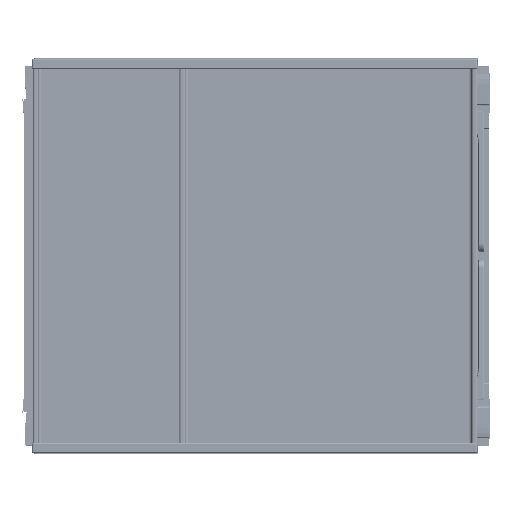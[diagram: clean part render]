
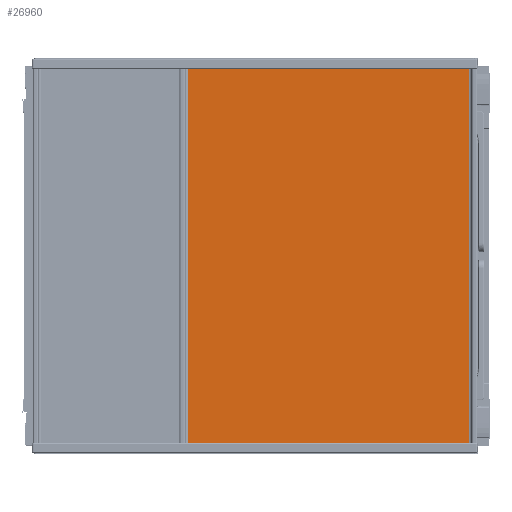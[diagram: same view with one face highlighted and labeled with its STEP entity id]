
A CAD part, top view. The second image highlights one B-rep face of the part: STEP entity #26960.
In plain terms, the highlighted planar face has unit normal (0, 0, 1).
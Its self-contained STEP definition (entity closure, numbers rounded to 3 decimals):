
#26960=ADVANCED_FACE('',(#42848),#35161,.T.);
#35161=PLANE('',#219201);
#42848=FACE_OUTER_BOUND('',#54937,.T.);
#54937=EDGE_LOOP('',(#101114,#101115,#101116,#101117));
#101114=ORIENTED_EDGE('',*,*,#165396,.F.);
#101115=ORIENTED_EDGE('',*,*,#165397,.T.);
#101116=ORIENTED_EDGE('',*,*,#165398,.T.);
#101117=ORIENTED_EDGE('',*,*,#165399,.T.);
#140250=VERTEX_POINT('',#370273);
#140251=VERTEX_POINT('',#370274);
#140252=VERTEX_POINT('',#370276);
#140253=VERTEX_POINT('',#370278);
#165396=EDGE_CURVE('',#140250,#140251,#187519,.T.);
#165397=EDGE_CURVE('',#140250,#140252,#187520,.T.);
#165398=EDGE_CURVE('',#140252,#140253,#187521,.T.);
#165399=EDGE_CURVE('',#140253,#140251,#187522,.T.);
#187519=LINE('',#370272,#201956);
#187520=LINE('',#370275,#201957);
#187521=LINE('',#370277,#201958);
#187522=LINE('',#370279,#201959);
#201956=VECTOR('',#257082,1.);
#201957=VECTOR('',#257083,1.);
#201958=VECTOR('',#257084,1.);
#201959=VECTOR('',#257085,1.);
#219201=AXIS2_PLACEMENT_3D('',#370280,#257086,#257087);
#257082=DIRECTION('',(-1.,0.,0.));
#257083=DIRECTION('',(0.,1.,0.));
#257084=DIRECTION('',(-1.,0.,0.));
#257085=DIRECTION('',(0.,-1.,0.));
#257086=DIRECTION('',(0.,0.,1.));
#257087=DIRECTION('',(0.,1.,0.));
#370272=CARTESIAN_POINT('',(-212.538,-197.685,103.038));
#370273=CARTESIAN_POINT('',(-21.538,-197.685,103.038));
#370274=CARTESIAN_POINT('',(-318.538,-197.685,103.038));
#370275=CARTESIAN_POINT('',(-21.538,8.315,103.038));
#370276=CARTESIAN_POINT('',(-21.538,197.715,103.038));
#370277=CARTESIAN_POINT('',(-212.538,197.715,103.038));
#370278=CARTESIAN_POINT('',(-318.538,197.715,103.038));
#370279=CARTESIAN_POINT('',(-318.538,-272.685,103.038));
#370280=CARTESIAN_POINT('',(-212.538,-115.185,103.038));
